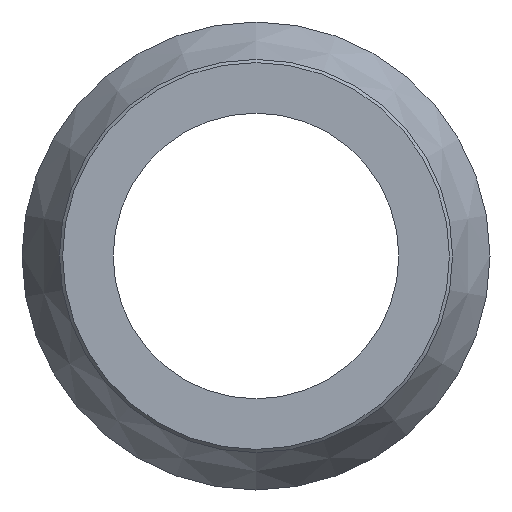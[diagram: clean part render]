
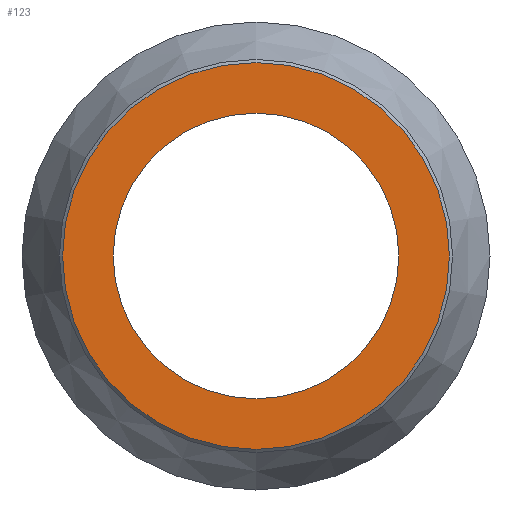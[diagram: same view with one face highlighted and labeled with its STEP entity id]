
A CAD part, left-side view. The second image highlights one B-rep face of the part: STEP entity #123.
In plain terms, the highlighted planar face has unit normal (-1, 0, 0).
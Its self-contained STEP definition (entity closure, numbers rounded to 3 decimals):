
#20=PLANE('',#150);
#32=ORIENTED_EDGE('',*,*,#50,.T.);
#33=ORIENTED_EDGE('',*,*,#51,.F.);
#50=EDGE_CURVE('',#60,#60,#70,.F.);
#51=EDGE_CURVE('',#61,#61,#71,.T.);
#60=VERTEX_POINT('',#219);
#61=VERTEX_POINT('',#221);
#70=CIRCLE('',#151,31.);
#71=CIRCLE('',#152,22.9);
#82=EDGE_LOOP('',(#32));
#83=EDGE_LOOP('',(#33));
#102=FACE_BOUND('',#82,.T.);
#103=FACE_BOUND('',#83,.T.);
#123=ADVANCED_FACE('',(#102,#103),#20,.F.);
#150=AXIS2_PLACEMENT_3D('',#217,#179,#180);
#151=AXIS2_PLACEMENT_3D('',#218,#181,#182);
#152=AXIS2_PLACEMENT_3D('',#220,#183,#184);
#179=DIRECTION('',(1.,0.,0.));
#180=DIRECTION('',(0.,0.,-1.));
#181=DIRECTION('',(1.,0.,0.));
#182=DIRECTION('',(0.,0.,-1.));
#183=DIRECTION('',(-1.,0.,0.));
#184=DIRECTION('',(0.,0.,1.));
#217=CARTESIAN_POINT('',(-71.,0.,31.5));
#218=CARTESIAN_POINT('',(-71.,0.,0.));
#219=CARTESIAN_POINT('',(-71.,0.,-31.));
#220=CARTESIAN_POINT('',(-71.,0.,0.));
#221=CARTESIAN_POINT('',(-71.,0.,22.9));
